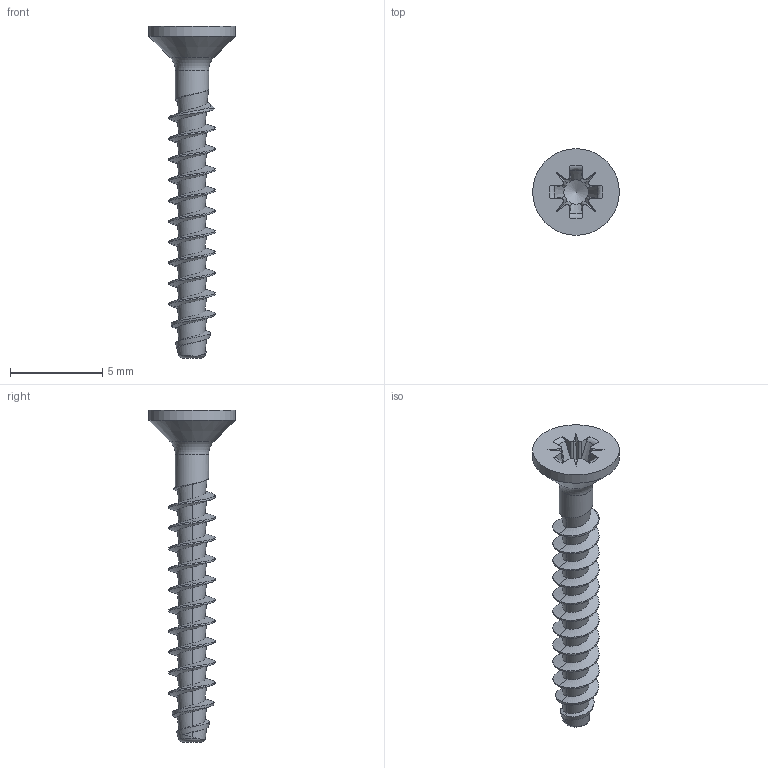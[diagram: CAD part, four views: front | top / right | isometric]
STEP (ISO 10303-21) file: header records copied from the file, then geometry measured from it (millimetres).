
FILE_DESCRIPTION(/* description */ (''),/* implementation_level */ '2;1');
FILE_NAME(/* name */ 'KN1033-STS-Neu-25x18-Z1.step',/* time_stamp */ '2017-10-20T11:44:58+02:00',/* author */ (''),/* organization */ (''),/* preprocessor_version */ 'ST-DEVELOPER v16',/* originating_system */ 'SIEMENS PLM Software NX 10.0',/* authorisation */ '');
FILE_SCHEMA (('AUTOMOTIVE_DESIGN { 1 0 10303 214 3 1 1 1 }'));
Length unit declared in the file: millimetre
Products named in the file (1): KN1033-STS-Neu-25x18-Z1
Bounding box: 4.7 x 4.7 x 18 mm (x, y, z)
Volume: 56.4 mm3; surface area: 194.1 mm2
Topology: 1 solids, 1 shells, 93 faces, 241 edges, 150 vertices
Faces by surface type: bspline 41, plane 26, cylinder 12, cone 8, torus 6
Full cylindrical faces by diameter (mm): 1.8 x1, 4.7 x1
Entity records: 5414 total; most frequent: CARTESIAN_POINT 3516, ORIENTED_EDGE 456, DIRECTION 256, EDGE_CURVE 228, VERTEX_POINT 145, B_SPLINE_CURVE_WITH_KNOTS 105, EDGE_LOOP 98, LINE 94
